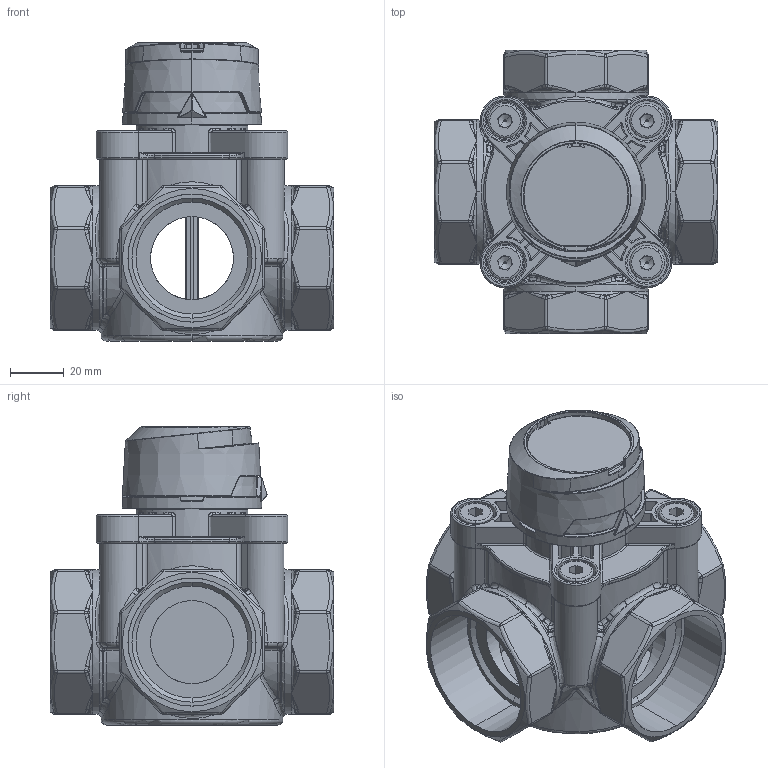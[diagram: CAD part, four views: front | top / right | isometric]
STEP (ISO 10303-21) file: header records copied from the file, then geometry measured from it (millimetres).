
FILE_DESCRIPTION (( 'STEP AP214' ), '1' );
FILE_NAME ('ARV_4_drogowy_obrotowy_zawor_mieszajacy_1348620_0_3D_AFRISO.STEP', '2024-11-25T13:08:38', ( '' ), ( '' ), 'SwSTEP 2.0', 'SolidWorks 2024', '' );
FILE_SCHEMA (( 'AUTOMOTIVE_DESIGN' ));
Length unit declared in the file: millimetre
Products named in the file (18): 05 01 000508_Einspritzbolzen M5x46; 05 01 001123_Lagerscheibe; 90014581 5012_Senkschr. ISO 14581 - M5x12; 801 000 0202_O-Ring _X_F88,73x1,78mm EPDM; 907984 8020_Zylinderschr. DIN 7984 - M8x20_0-3; 05 00 000271_Sockel Mischerbet. _AFRISO-PL_; 801 000 5003_O-Ring _X_F850,0x3,0mm EPDM; 907984 8020_Zylinderschr. DIN 7984 - M8x20_0-2; 05 01 001108_Geh_X_E4use 4-Wege-Mischer DN40; 05 01 001122_Aufnahmesockel DN40_DN50; 05 00 000276_Handrad Mischerbet. GE_X_C4NDERT; 907984 8020_Zylinderschr. DIN 7984 - M8x20_0; Baugruppe Mischerbet. _AFRISO-PL__Baugruppe; ARV_4_drogowy_obrotowy_zawor_mieszajacy_1348620_0_3D_AFRISO; 05 01 001113_Drehschieber ARV 4-W DN40_50-0; 05 01 001113_Drehschieber ARV 4-W DN40_50; 907984 8020_Zylinderschr. DIN 7984 - M8x20_0-1; 801 000 0202_O-Ring _X_F88,73x1,78mm EPDM-4
Assembly tree (17 placements, depth 3):
  ARV_4_drogowy_obrotowy_zawor_mieszajacy_1348620_0_3D_AFRISO
    Baugruppe Mischerbet. _AFRISO-PL__Baugruppe
      05 00 000271_Sockel Mischerbet. _AFRISO-PL_
      90014581 5012_Senkschr. ISO 14581 - M5x12
      05 00 000276_Handrad Mischerbet. GE_X_C4NDERT
    05 01 001113_Drehschieber ARV 4-W DN40_50
      05 01 000508_Einspritzbolzen M5x46
      05 01 001113_Drehschieber ARV 4-W DN40_50-0
    801 000 5003_O-Ring _X_F850,0x3,0mm EPDM
    05 01 001123_Lagerscheibe
    05 01 001108_Geh_X_E4use 4-Wege-Mischer DN40
    907984 8020_Zylinderschr. DIN 7984 - M8x20_0
    907984 8020_Zylinderschr. DIN 7984 - M8x20_0-1
    907984 8020_Zylinderschr. DIN 7984 - M8x20_0-2
    907984 8020_Zylinderschr. DIN 7984 - M8x20_0-3
    801 000 0202_O-Ring _X_F88,73x1,78mm EPDM
    801 000 0202_O-Ring _X_F88,73x1,78mm EPDM-4
    05 01 001122_Aufnahmesockel DN40_DN50
Bounding box: 106 x 106 x 111.4 mm (x, y, z)
Volume: 216523.1 mm3; surface area: 141613.4 mm2
Topology: 15 solids, 15 shells, 3263 faces, 8085 edges, 4713 vertices
Faces by surface type: cylinder 912, plane 693, torus 547, bspline 547, sphere 295, cone 269
Entity records: 327598 total; most frequent: CARTESIAN_POINT 256249, ORIENTED_EDGE 15610, DIRECTION 14317, EDGE_CURVE 7805, AXIS2_PLACEMENT_3D 6036, VERTEX_POINT 4640, EDGE_LOOP 3379, CIRCLE 3301
